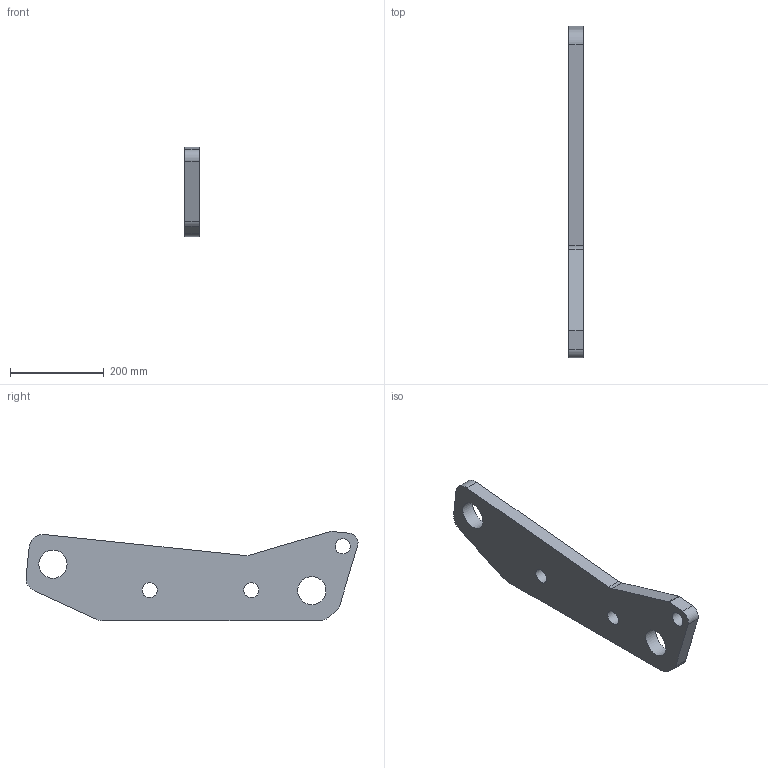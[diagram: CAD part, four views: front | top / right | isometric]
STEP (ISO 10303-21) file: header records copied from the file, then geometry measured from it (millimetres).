
FILE_DESCRIPTION(('STEP AP203'), '1');
FILE_NAME('Áîêîâîé êðîíøòåéí _ Ðû÷àã Lemken ID_39152 (4367460).04', '', ('UNSPECIFIED'), ('UNSPECIFIED'), 'C3D Converter', 'C3D Toolkit', '');
FILE_SCHEMA(('CONFIG_CONTROL_DESIGN'));
Length unit declared in the file: millimetre
Products named in the file (1): Рычаг Lemken ID_39152 (4367460).04
Bounding box: 30 x 708.6 x 190.63 mm (x, y, z)
Volume: 2954180.3 mm3; surface area: 267061.8 mm2
Topology: 1 solids, 1 shells, 23 faces, 63 edges, 42 vertices
Faces by surface type: cylinder 13, plane 10
Full cylindrical faces by diameter (mm): 32.1 x3, 60.1 x2
Entity records: 962 total; most frequent: DIRECTION 132, CARTESIAN_POINT 124, ORIENTED_EDGE 116, EDGE_CURVE 58, AXIS2_PLACEMENT_3D 50, VERTEX_POINT 42, EDGE_LOOP 38, LINE 32
